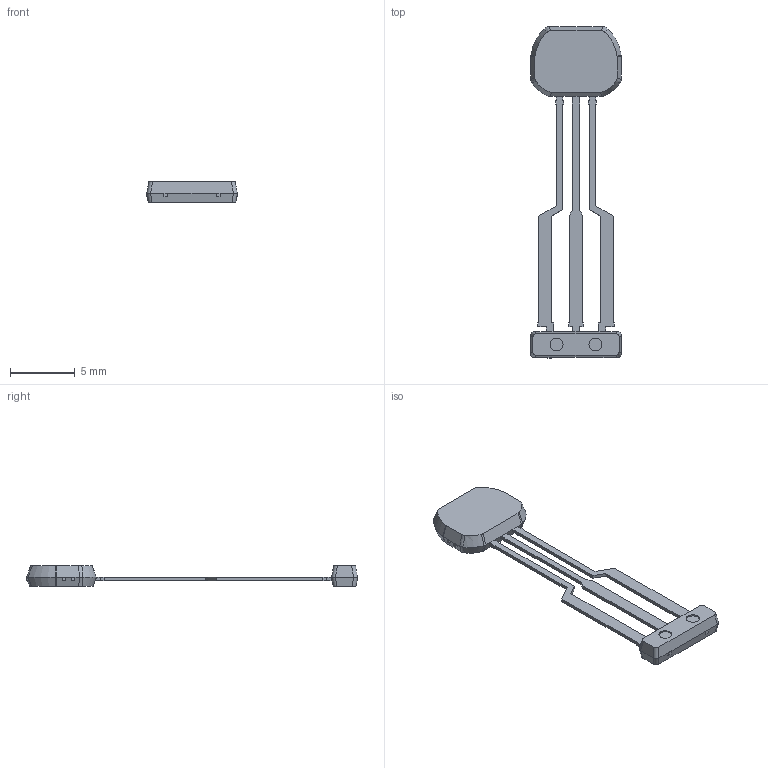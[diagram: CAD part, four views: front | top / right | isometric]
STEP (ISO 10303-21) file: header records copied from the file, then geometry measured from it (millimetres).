
FILE_DESCRIPTION (( 'STEP AP214' ), '1' );
FILE_NAME ('KH.STEP', '2017-05-24T15:33:53', ( '' ), ( '' ), 'SwSTEP 2.0', 'SolidWorks 2015', '' );
FILE_SCHEMA (( 'AUTOMOTIVE_DESIGN' ));
Length unit declared in the file: millimetre
Products named in the file (1): KH
Bounding box: 7.08 x 25.67 x 1.6 mm (x, y, z)
Volume: 80.4 mm3; surface area: 257.1 mm2
Topology: 1 solids, 1 shells, 189 faces, 502 edges, 316 vertices
Faces by surface type: plane 147, cylinder 18, bspline 16, cone 8
Entity records: 6743 total; most frequent: CARTESIAN_POINT 1484, ORIENTED_EDGE 1004, DIRECTION 814, EDGE_CURVE 502, VECTOR 402, LINE 402, VERTEX_POINT 316, AXIS2_PLACEMENT_3D 206
